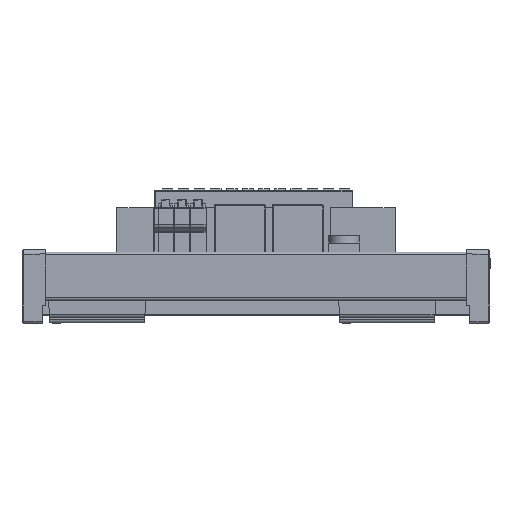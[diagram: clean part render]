
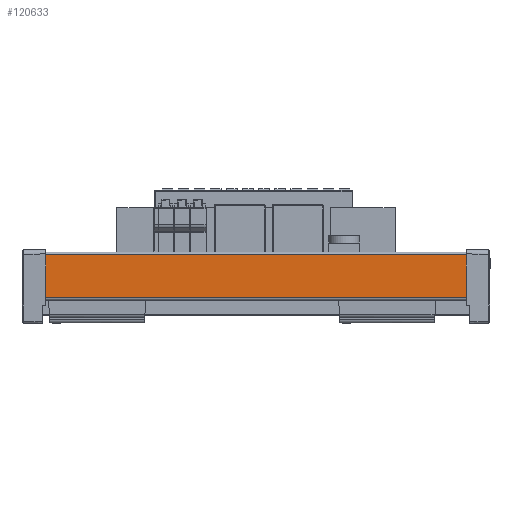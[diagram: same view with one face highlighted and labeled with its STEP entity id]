
A CAD part, front view. The second image highlights one B-rep face of the part: STEP entity #120633.
In plain terms, the highlighted planar face has unit normal (0, -1, 0).
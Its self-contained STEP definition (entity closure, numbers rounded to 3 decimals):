
#12861=DIRECTION('',(0.,0.,1.));
#12862=VECTOR('',#12861,13.5);
#12863=CARTESIAN_POINT('',(113.8,-42.,-12.35));
#12864=LINE('',#12863,#12862);
#12865=DIRECTION('',(0.,0.,1.));
#12866=VECTOR('',#12865,13.5);
#12867=CARTESIAN_POINT('',(-18.8,-42.,-12.35));
#12868=LINE('',#12867,#12866);
#12869=DIRECTION('',(1.,0.,0.));
#12870=VECTOR('',#12869,132.6);
#12871=CARTESIAN_POINT('',(-18.8,-42.,1.15));
#12872=LINE('',#12871,#12870);
#12883=DIRECTION('',(1.,0.,0.));
#12884=VECTOR('',#12883,132.6);
#12885=CARTESIAN_POINT('',(-18.8,-42.,-12.35));
#12886=LINE('',#12885,#12884);
#91814=CARTESIAN_POINT('',(-18.8,-42.,1.15));
#91815=VERTEX_POINT('',#91814);
#91816=CARTESIAN_POINT('',(-18.8,-42.,-12.35));
#91817=VERTEX_POINT('',#91816);
#92752=CARTESIAN_POINT('',(113.8,-42.,1.15));
#92753=VERTEX_POINT('',#92752);
#92754=CARTESIAN_POINT('',(113.8,-42.,-12.35));
#92755=VERTEX_POINT('',#92754);
#120621=CARTESIAN_POINT('',(-28.101,-42.,-12.8));
#120622=DIRECTION('',(0.,1.,0.));
#120623=DIRECTION('',(-1.,0.,0.));
#120624=AXIS2_PLACEMENT_3D('',#120621,#120622,#120623);
#120625=PLANE('',#120624);
#120626=ORIENTED_EDGE('',*,*,#111699,.F.);
#120628=ORIENTED_EDGE('',*,*,#120627,.F.);
#120629=ORIENTED_EDGE('',*,*,#114559,.T.);
#120630=ORIENTED_EDGE('',*,*,#120614,.T.);
#120631=EDGE_LOOP('',(#120626,#120628,#120629,#120630));
#120632=FACE_OUTER_BOUND('',#120631,.F.);
#120633=ADVANCED_FACE('',(#120632),#120625,.F.);
#111699=EDGE_CURVE('',#92755,#92753,#12864,.T.);
#114559=EDGE_CURVE('',#91817,#91815,#12868,.T.);
#120614=EDGE_CURVE('',#91815,#92753,#12872,.T.);
#120627=EDGE_CURVE('',#91817,#92755,#12886,.T.);
